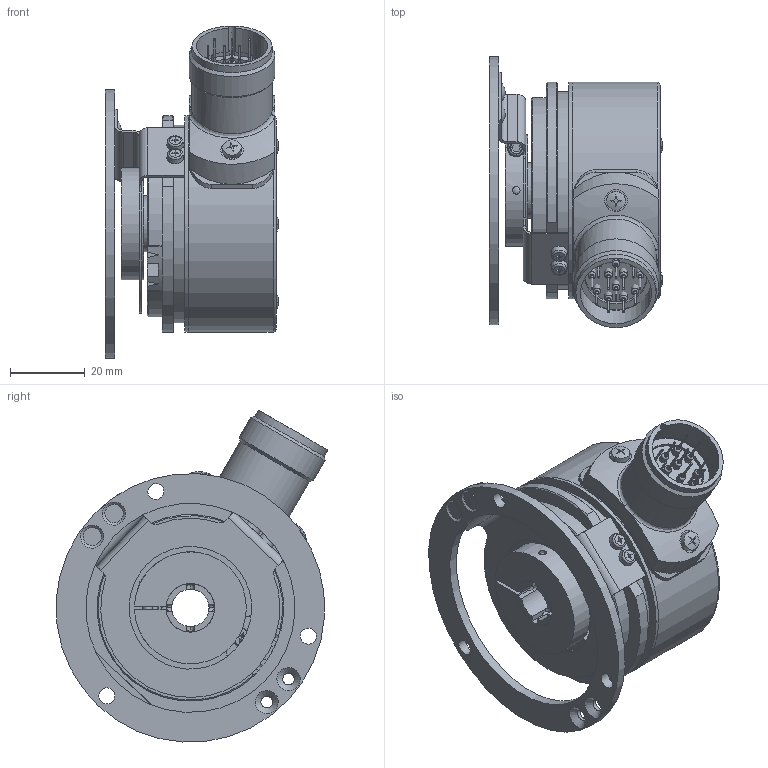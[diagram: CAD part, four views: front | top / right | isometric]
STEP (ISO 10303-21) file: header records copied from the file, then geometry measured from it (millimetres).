
FILE_DESCRIPTION (( 'STEP AP203' ), '1' );
FILE_NAME ('8.5825.35X2.XXXX.STEP', '2013-05-07T06:47:58', ( 'Hodot' ), ( '' ), 'SwSTEP 2.0', 'SolidWorks 2012', '' );
FILE_SCHEMA (( 'CONFIG_CONTROL_DESIGN' ));
Length unit declared in the file: millimetre
Products named in the file (1): 8.5825.35X2.XXXX
Bounding box: 46.38 x 72.74 x 88.94 mm (x, y, z)
Volume: 62892.5 mm3; surface area: 52750.6 mm2
Topology: 37 solids, 38 shells, 748 faces, 1657 edges, 1064 vertices
Faces by surface type: plane 319, cylinder 264, cone 85, torus 39, sphere 37, bspline 4
Full cylindrical faces by diameter (mm): 0.5 x12, 0.6 x12, 1.1 x12, 1.2 x12, 1.4 x12, 2 x38, 2.05 x14, 2.5 x24, 2.6 x5, 2.7 x1, 3.1 x6, 3.15 x2, 3.2 x2, 4.3 x3, 4.5 x1, 4.7 x1, 5 x6, 5.5 x3, 6 x2, 10 x1, 10.5 x1, 15 x3, 16 x1, 16.1 x1, 16.5 x1, 16.8 x2, 17 x1, 17.5 x1, 17.7 x1, 17.8 x1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
Entity records: 21265 total; most frequent: CARTESIAN_POINT 6144, DIRECTION 3219, ORIENTED_EDGE 2434, AXIS2_PLACEMENT_3D 1389, EDGE_LOOP 1298, EDGE_CURVE 1217, FACE_OUTER_BOUND 1000, VERTEX_POINT 973
